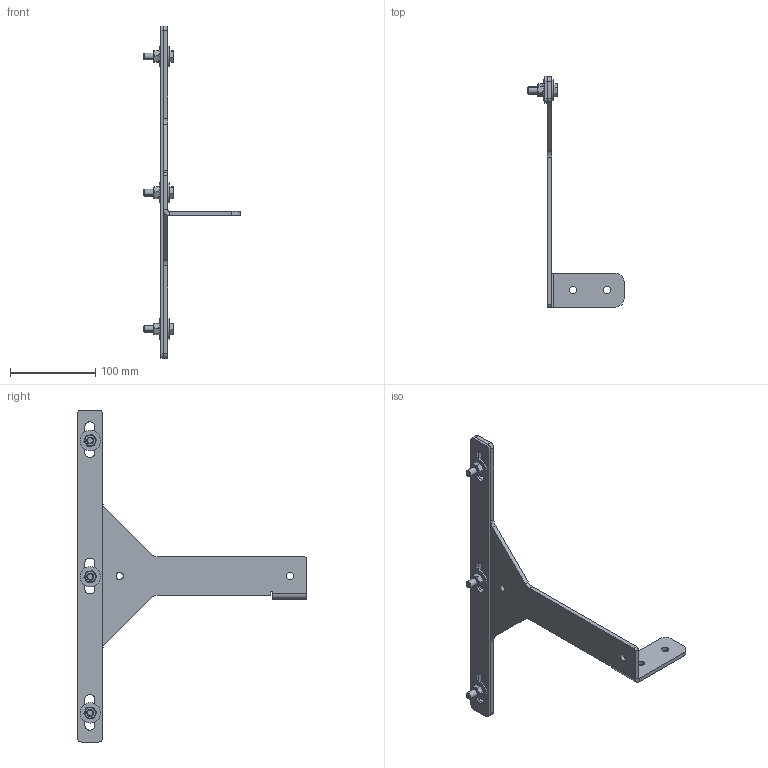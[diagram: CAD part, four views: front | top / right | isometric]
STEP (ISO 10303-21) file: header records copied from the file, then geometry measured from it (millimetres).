
FILE_DESCRIPTION (( 'STEP AP203' ), '1' );
FILE_NAME ('084.106.116.STEP', '2013-01-23T10:49:04', ( 'Alusic' ), ( 'Alusic' ), 'SwSTEP 2.0', 'SolidWorks 2011', '' );
FILE_SCHEMA (( 'CONFIG_CONTROL_DESIGN' ));
Length unit declared in the file: millimetre
Products named in the file (6): 084.106.116-2; 084.106.116; 084.106.116-1; Plain Washer Large Grade AC_ISO_Washer ISO 7093 - 8; Hex Screw GradeAB_ISO_ISO 4017 - M8 x 30-N; Torque nut 06_ISO_ISO 7719-M8-N
Assembly tree (14 placements, depth 2):
  084.106.116
    Plain Washer Large Grade AC_ISO_Washer ISO 7093 - 8  x6
    Torque nut 06_ISO_ISO 7719-M8-N  x3
    Hex Screw GradeAB_ISO_ISO 4017 - M8 x 30-N  x3
    084.106.116-2
    084.106.116-1
Bounding box: 113 x 270 x 390 mm (x, y, z)
Volume: 184204.8 mm3; surface area: 100512.7 mm2
Topology: 14 solids, 14 shells, 278 faces, 643 edges, 396 vertices
Faces by surface type: plane 121, cylinder 91, cone 60, torus 6
Entity records: 5355 total; most frequent: CARTESIAN_POINT 958, DIRECTION 777, ORIENTED_EDGE 710, EDGE_CURVE 355, AXIS2_PLACEMENT_3D 295, VERTEX_POINT 224, LINE 187, VECTOR 187
